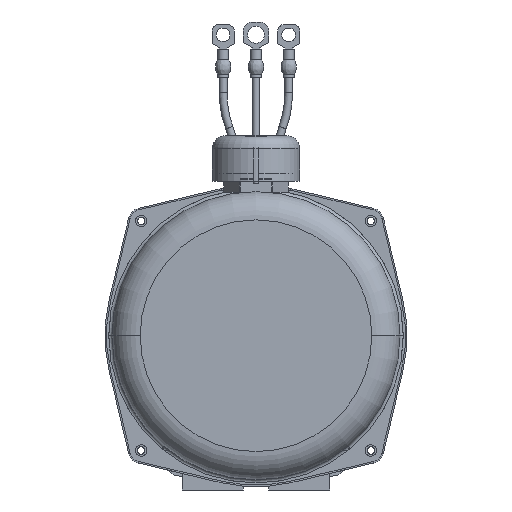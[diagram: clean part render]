
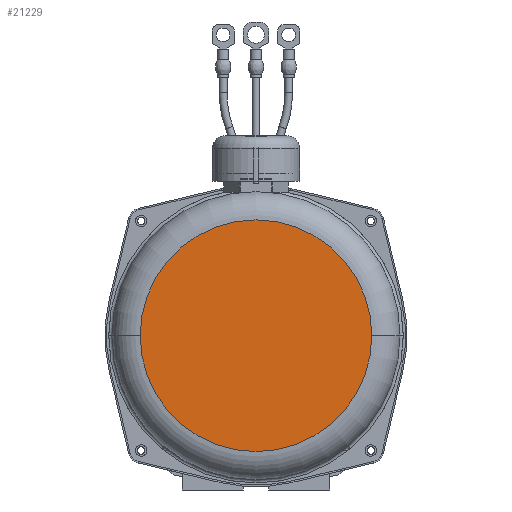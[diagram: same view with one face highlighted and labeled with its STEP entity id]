
A CAD part, front view. The second image highlights one B-rep face of the part: STEP entity #21229.
In plain terms, the highlighted planar face has unit normal (0, -1, 0).
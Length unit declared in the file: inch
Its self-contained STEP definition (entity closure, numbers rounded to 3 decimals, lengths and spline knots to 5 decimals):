
#20283=CARTESIAN_POINT('',(0.,-11.952,0.));
#20284=DIRECTION('',(0.,-1.,0.));
#20285=DIRECTION('',(1.,0.,0.));
#20286=AXIS2_PLACEMENT_3D('',#20283,#20284,#20285);
#20298=CARTESIAN_POINT('',(0.,-11.952,0.));
#20299=DIRECTION('',(0.,1.,0.));
#20300=DIRECTION('',(1.,0.,0.));
#20301=AXIS2_PLACEMENT_3D('',#20298,#20299,#20300);
#20606=CARTESIAN_POINT('',(2.2525,-11.952,0.));
#20608=VERTEX_POINT('',#20606);
#20614=CARTESIAN_POINT('',(-2.2525,-11.952,0.));
#20616=VERTEX_POINT('',#20614);
#21220=CARTESIAN_POINT('',(0.,-11.952,0.));
#21221=DIRECTION('',(0.,-1.,0.));
#21222=DIRECTION('',(-1.,0.,0.));
#21223=AXIS2_PLACEMENT_3D('',#21220,#21221,#21222);
#21224=PLANE('',#21223);
#21225=ORIENTED_EDGE('',*,*,#21215,.T.);
#21226=ORIENTED_EDGE('',*,*,#21199,.F.);
#21227=EDGE_LOOP('',(#21225,#21226));
#21228=FACE_OUTER_BOUND('',#21227,.F.);
#21229=ADVANCED_FACE('',(#21228),#21224,.T.);
#20287=CIRCLE('',#20286,2.2525);
#20302=CIRCLE('',#20301,2.2525);
#21199=EDGE_CURVE('',#20608,#20616,#20287,.T.);
#21215=EDGE_CURVE('',#20608,#20616,#20302,.T.);
